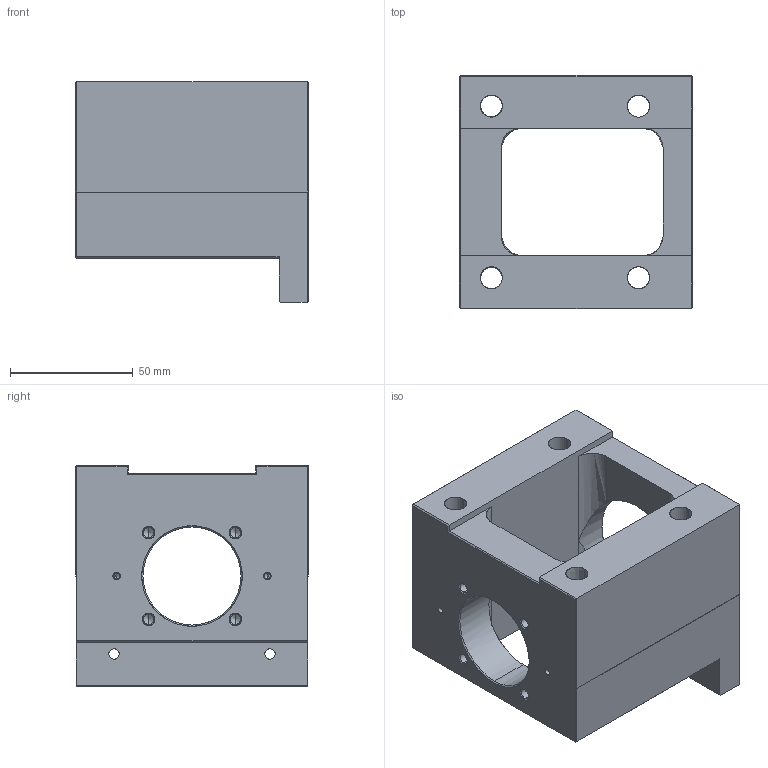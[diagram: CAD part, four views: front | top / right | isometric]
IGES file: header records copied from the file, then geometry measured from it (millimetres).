
Start section: SolidWorks IGES file using analytic representation for surfaces
Global section: file name: C:\Users\117\Desktop\1061208網站3D圖檔問題處理\傳動座\外露型\MBH\MBH15-EP.IGS,15HSolidWorks; native system: 2017; preprocessor: SolidWorks 2017; author: 117; date: 171228.142641; units: millimetre
Bounding box: 95 x 95 x 90 mm (x, y, z)
Surface area: 67050.4 mm2 (no closed solid volume)
Topology: 0 solids, 0 shells, 168 faces, 2296 edges, 2272 vertices
Faces by surface type: revolution 122, bspline 46
